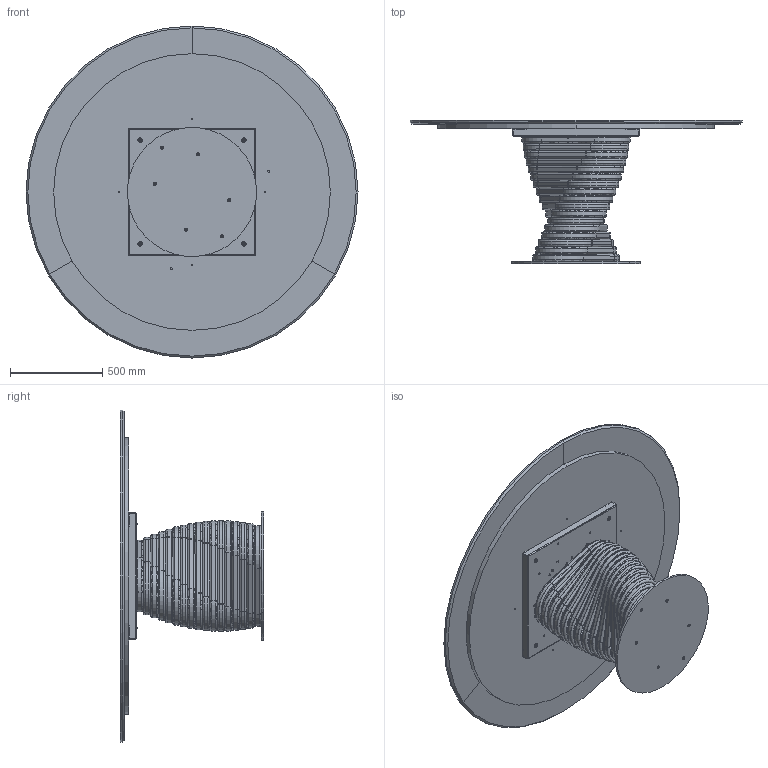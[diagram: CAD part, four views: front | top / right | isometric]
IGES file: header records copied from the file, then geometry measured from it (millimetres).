
Start section: SolidWorks IGES file using analytic representation for surfaces
Global section: file name: Y:\eforma\TECNICO\SOLIDWORKS\E-FORMA\1-TAVOLI\ROTOLO\02 parts\RO13M.IGS; native system: SolidWorks 2022; preprocessor: SolidWorks 2022; author: eforma.tech; date: 240807.151141; units: millimetre
Bounding box: 1800 x 777 x 1800 mm (x, y, z)
Volume: 106590298.5 mm3; surface area: 15818805.3 mm2
Topology: 100 solids, 100 shells, 1837 faces, 4477 edges, 2806 vertices
Faces by surface type: revolution 1083, plane 754
